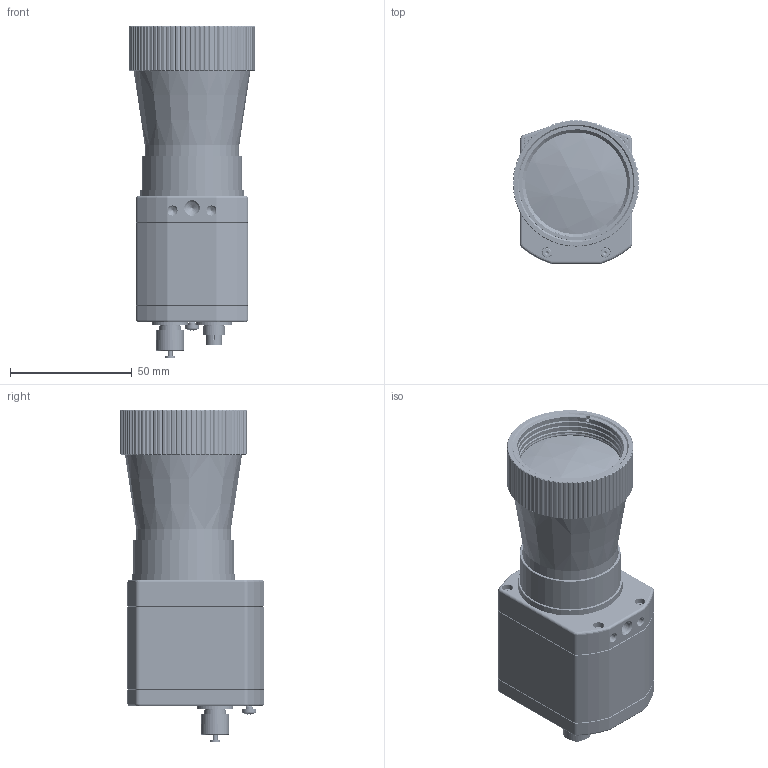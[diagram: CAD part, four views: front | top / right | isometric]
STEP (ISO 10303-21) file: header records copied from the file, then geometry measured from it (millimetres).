
FILE_DESCRIPTION (( 'STEP AP214' ), '1' );
FILE_NAME ('PI-640-12G MO44-Hülle.STEP', '2017-10-19T07:26:45', ( 'admin' ), ( '' ), 'SwSTEP 2.0', 'SolidWorks 2017', '' );
FILE_SCHEMA (( 'AUTOMOTIVE_DESIGN' ));
Length unit declared in the file: millimetre
Products named in the file (10): PI-640-12G MO44-Hülle; 9P619 Objektiv-L44-MO-VGA; 63242 O-Ring NBR 42 x 2_O-Ring 14 x 1,5; 1P627 Abschlussring-L44-MO-VGA; 63041 O-Ring 45x1_O-Ring 45 x 1; 63162 O-Ring 37 x 1,5_O-Ring 38 x 1,5; 1P624 Objektivtubus-L44-MO-VGA; 1P623 Schraubring-L44-MO-VGA; 1P619 Linse1-L44-MO-VGA; PI-640-Hülle
Assembly tree (9 placements, depth 3):
  PI-640-12G MO44-Hülle
    PI-640-Hülle
    9P619 Objektiv-L44-MO-VGA
      1P619 Linse1-L44-MO-VGA
      1P623 Schraubring-L44-MO-VGA
      1P624 Objektivtubus-L44-MO-VGA
      63162 O-Ring 37 x 1,5_O-Ring 38 x 1,5
      63041 O-Ring 45x1_O-Ring 45 x 1
      1P627 Abschlussring-L44-MO-VGA
      63242 O-Ring NBR 42 x 2_O-Ring 14 x 1,5
Bounding box: 52 x 59 x 136.4 mm (x, y, z)
Volume: 34819.7 mm3; surface area: 83711.1 mm2
Topology: 7 solids, 37 shells, 4009 faces, 9467 edges, 5552 vertices
Faces by surface type: cone 1582, cylinder 1441, plane 699, bspline 213, sphere 46, torus 28
Entity records: 160509 total; most frequent: CARTESIAN_POINT 35201, DIRECTION 20098, ORIENTED_EDGE 18664, EDGE_CURVE 9338, AXIS2_PLACEMENT_3D 7996, VERTEX_POINT 5514, EDGE_LOOP 4190, CIRCLE 4186
